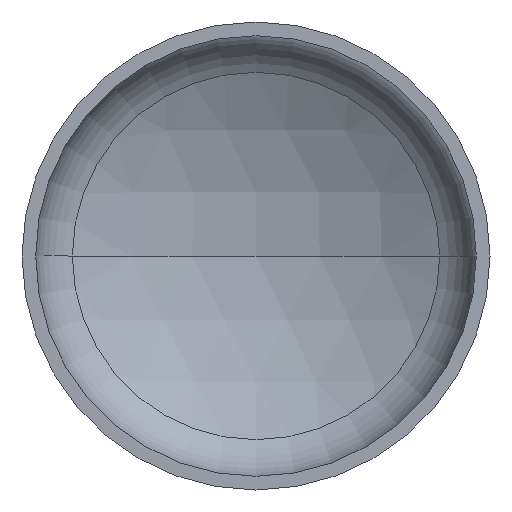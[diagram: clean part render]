
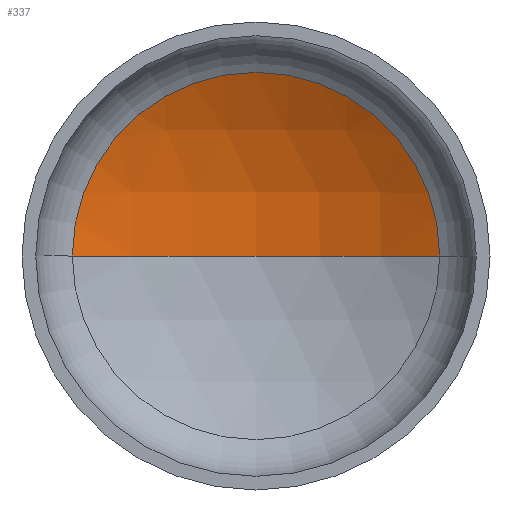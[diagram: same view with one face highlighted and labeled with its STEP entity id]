
A CAD part, front view. The second image highlights one B-rep face of the part: STEP entity #337.
In plain terms, the highlighted spherical face has radius 2240 mm.
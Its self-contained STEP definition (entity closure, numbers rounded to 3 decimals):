
#7 = AXIS2_PLACEMENT_3D ( 'NONE', #143, #243, #119 ) ;
#12 = EDGE_LOOP ( 'NONE', ( #204, #17, #122 ) ) ;
#15 = AXIS2_PLACEMENT_3D ( 'NONE', #142, #180, #307 ) ;
#17 = ORIENTED_EDGE ( 'NONE', *, *, #158, .T. ) ;
#28 = DIRECTION ( 'NONE',  ( 1., 0., 0. ) ) ;
#49 = AXIS2_PLACEMENT_3D ( 'NONE', #404, #267, #195 ) ;
#52 = AXIS2_PLACEMENT_3D ( 'NONE', #164, #167, #28 ) ;
#82 = VERTEX_POINT ( 'NONE', #232 ) ;
#115 = VERTEX_POINT ( 'NONE', #302 ) ;
#119 = DIRECTION ( 'NONE',  ( 1., 0., 0. ) ) ;
#122 = ORIENTED_EDGE ( 'NONE', *, *, #140, .T. ) ;
#125 = VERTEX_POINT ( 'NONE', #311 ) ;
#132 = SPHERICAL_SURFACE ( 'NONE', #15, 2240. ) ;
#140 = EDGE_CURVE ( 'NONE', #125, #115, #360, .T. ) ;
#142 = CARTESIAN_POINT ( 'NONE',  ( 0., -1477.199, 0. ) ) ;
#143 = CARTESIAN_POINT ( 'NONE',  ( 0., -1477.199, 0. ) ) ;
#158 = EDGE_CURVE ( 'NONE', #82, #125, #410, .T. ) ;
#164 = CARTESIAN_POINT ( 'NONE',  ( 0., 474.694, 0. ) ) ;
#167 = DIRECTION ( 'NONE',  ( 0., -1., 0. ) ) ;
#180 = DIRECTION ( 'NONE',  ( 0., 0., -1. ) ) ;
#195 = DIRECTION ( 'NONE',  ( -1., 0., 0. ) ) ;
#204 = ORIENTED_EDGE ( 'NONE', *, *, #350, .F. ) ;
#232 = CARTESIAN_POINT ( 'NONE',  ( 0., 762.801, 0. ) ) ;
#243 = DIRECTION ( 'NONE',  ( 0., 0., 1. ) ) ;
#267 = DIRECTION ( 'NONE',  ( 0., 0., -1. ) ) ;
#302 = CARTESIAN_POINT ( 'NONE',  ( -1098.961, 474.694, 0. ) ) ;
#307 = DIRECTION ( 'NONE',  ( -1., 0., 0. ) ) ;
#311 = CARTESIAN_POINT ( 'NONE',  ( 1098.961, 474.694, 0. ) ) ;
#319 = CIRCLE ( 'NONE', #7, 2240. ) ;
#336 = FACE_OUTER_BOUND ( 'NONE', #12, .T. ) ;
#337 = ADVANCED_FACE ( 'NONE', ( #336 ), #132, .F. ) ;
#350 = EDGE_CURVE ( 'NONE', #82, #115, #319, .T. ) ;
#360 = CIRCLE ( 'NONE', #52, 1098.961 ) ;
#404 = CARTESIAN_POINT ( 'NONE',  ( 0., -1477.199, 0. ) ) ;
#410 = CIRCLE ( 'NONE', #49, 2240. ) ;
